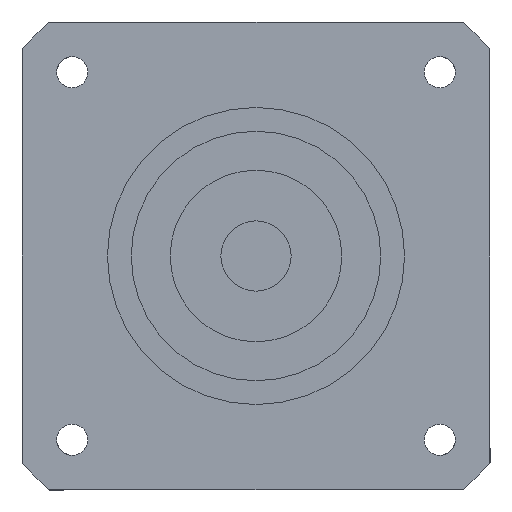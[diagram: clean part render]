
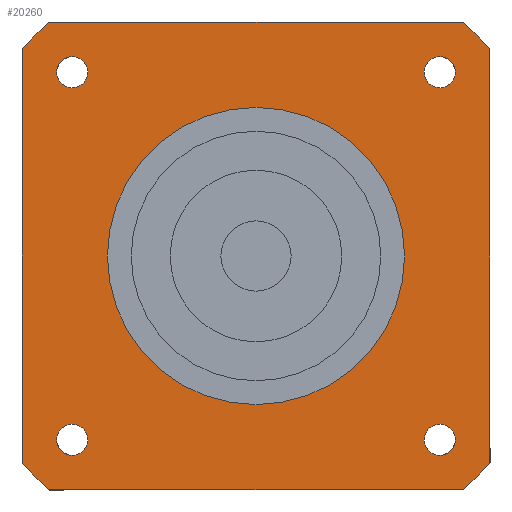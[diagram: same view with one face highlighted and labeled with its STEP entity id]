
A CAD part, left-side view. The second image highlights one B-rep face of the part: STEP entity #20260.
In plain terms, the highlighted planar face has unit normal (-1, 0, 0) as drawn and (0, 0, -1) by its records, which use the part's own axes.
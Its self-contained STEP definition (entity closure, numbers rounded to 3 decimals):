
#11110=CARTESIAN_POINT('',(-30.,-26.458,-57.));
#11120=VERTEX_POINT('',#11110);
#11280=CARTESIAN_POINT('',(-26.458,-30.,-57.));
#11290=VERTEX_POINT('',#11280);
#11320=CARTESIAN_POINT('',(0.,0.,
-57.));
#11330=DIRECTION('',(0.,0.,1.));
#11340=DIRECTION('',(0.,-1.,0.));
#11350=AXIS2_PLACEMENT_3D('',#11320,#11330,#11340);
#11360=CIRCLE('',#11350,40.);
#11370=EDGE_CURVE('',#11120,#11290,#11360,.T.);
#12870=CARTESIAN_POINT('',(-30.,26.458,-57.));
#12880=VERTEX_POINT('',#12870);
#12980=CARTESIAN_POINT('',(-30.,30.,-57.));
#12990=DIRECTION('',(0.,-1.,0.));
#13000=VECTOR('',#12990,1000.);
#13010=LINE('',#12980,#13000);
#13020=EDGE_CURVE('',#12880,#11120,#13010,.T.);
#17850=CARTESIAN_POINT('',(-26.458,30.,-57.));
#17860=VERTEX_POINT('',#17850);
#17910=CARTESIAN_POINT('',(0.,0.,
-57.));
#17920=DIRECTION('',(0.,0.,1.));
#17930=DIRECTION('',(0.,-1.,0.));
#17940=AXIS2_PLACEMENT_3D('',#17910,#17920,#17930);
#17950=CIRCLE('',#17940,40.);
#17960=EDGE_CURVE('',#17860,#12880,#17950,.T.);
#18100=CARTESIAN_POINT('',(26.458,30.,-57.));
#18110=VERTEX_POINT('',#18100);
#18160=CARTESIAN_POINT('',(30.,30.,-57.));
#18170=DIRECTION('',(-1.,0.,0.));
#18180=VECTOR('',#18170,1000.);
#18190=LINE('',#18160,#18180);
#18200=EDGE_CURVE('',#18110,#17860,#18190,.T.);
#18310=CARTESIAN_POINT('',(0.,0.,
-57.));
#18320=DIRECTION('',(0.,0.,1.));
#18330=DIRECTION('',(0.,-1.,0.));
#18340=AXIS2_PLACEMENT_3D('',#18310,#18320,#18330);
#18350=CIRCLE('',#18340,40.);
#18360=CARTESIAN_POINT('',(30.,26.458,-57.));
#18370=VERTEX_POINT('',#18360);
#18380=EDGE_CURVE('',#18370,#18110,#18350,.T.);
#18590=CARTESIAN_POINT('',(30.,-26.458,-57.));
#18600=VERTEX_POINT('',#18590);
#18650=CARTESIAN_POINT('',(30.,-30.,-57.));
#18660=DIRECTION('',(0.,1.,0.));
#18670=VECTOR('',#18660,1000.);
#18680=LINE('',#18650,#18670);
#18690=EDGE_CURVE('',#18600,#18370,#18680,.T.);
#18830=CARTESIAN_POINT('',(26.458,-30.,-57.));
#18840=VERTEX_POINT('',#18830);
#18890=CARTESIAN_POINT('',(0.,0.,
-57.));
#18900=DIRECTION('',(0.,0.,1.));
#18910=DIRECTION('',(0.,-1.,0.));
#18920=AXIS2_PLACEMENT_3D('',#18890,#18900,#18910);
#18930=CIRCLE('',#18920,40.);
#18940=EDGE_CURVE('',#18840,#18600,#18930,.T.);
#19070=CARTESIAN_POINT('',(-30.,-30.,-57.));
#19080=DIRECTION('',(1.,0.,0.));
#19090=VECTOR('',#19080,1000.);
#19100=LINE('',#19070,#19090);
#19110=EDGE_CURVE('',#11290,#18840,#19100,.T.);
#19160=CARTESIAN_POINT('',(-30.,30.,-57.));
#19170=DIRECTION('',(0.,0.,1.));
#19180=DIRECTION('',(-1.,0.,0.));
#19190=AXIS2_PLACEMENT_3D('',#19160,#19170,#19180);
#19200=PLANE('',#19190);
#19210=CARTESIAN_POINT('',(23.571,-23.571,-57.));
#19220=DIRECTION('',(0.,0.,-1.));
#19230=DIRECTION('',(1.,0.,0.));
#19240=AXIS2_PLACEMENT_3D('',#19210,#19220,#19230);
#19250=CIRCLE('',#19240,2.);
#19260=CARTESIAN_POINT('',(25.571,-23.571,-57.));
#19270=VERTEX_POINT('',#19260);
#19280=CARTESIAN_POINT('',(23.571,-25.571,-57.));
#19290=VERTEX_POINT('',#19280);
#19300=EDGE_CURVE('',#19270,#19290,#19250,.T.);
#19310=ORIENTED_EDGE('',*,*,#19300,.F.);
#19320=CARTESIAN_POINT('',(23.571,-21.571,-57.));
#19330=VERTEX_POINT('',#19320);
#19340=EDGE_CURVE('',#19290,#19330,#19250,.T.);
#19350=ORIENTED_EDGE('',*,*,#19340,.F.);
#19360=EDGE_CURVE('',#19330,#19270,#19250,.T.);
#19370=ORIENTED_EDGE('',*,*,#19360,.F.);
#19380=EDGE_LOOP('',(#19370,#19350,#19310));
#19390=FACE_BOUND('',#19380,.T.);
#19400=CARTESIAN_POINT('',(23.571,23.571,-57.));
#19410=DIRECTION('',(0.,0.,-1.));
#19420=DIRECTION('',(0.,1.,0.));
#19430=AXIS2_PLACEMENT_3D('',#19400,#19410,#19420);
#19440=CIRCLE('',#19430,2.);
#19450=CARTESIAN_POINT('',(23.571,25.571,-57.));
#19460=VERTEX_POINT('',#19450);
#19470=CARTESIAN_POINT('',(25.571,23.571,-57.));
#19480=VERTEX_POINT('',#19470);
#19490=EDGE_CURVE('',#19460,#19480,#19440,.T.);
#19500=ORIENTED_EDGE('',*,*,#19490,.F.);
#19510=CARTESIAN_POINT('',(21.571,23.571,-57.));
#19520=VERTEX_POINT('',#19510);
#19530=EDGE_CURVE('',#19480,#19520,#19440,.T.);
#19540=ORIENTED_EDGE('',*,*,#19530,.F.);
#19550=EDGE_CURVE('',#19520,#19460,#19440,.T.);
#19560=ORIENTED_EDGE('',*,*,#19550,.F.);
#19570=EDGE_LOOP('',(#19560,#19540,#19500));
#19580=FACE_BOUND('',#19570,.T.);
#19590=CARTESIAN_POINT('',(-23.571,23.571,-57.));
#19600=DIRECTION('',(0.,0.,-1.));
#19610=DIRECTION('',(-1.,0.,0.));
#19620=AXIS2_PLACEMENT_3D('',#19590,#19600,#19610);
#19630=CIRCLE('',#19620,2.);
#19640=CARTESIAN_POINT('',(-25.571,23.571,-57.));
#19650=VERTEX_POINT('',#19640);
#19660=CARTESIAN_POINT('',(-23.571,25.571,-57.));
#19670=VERTEX_POINT('',#19660);
#19680=EDGE_CURVE('',#19650,#19670,#19630,.T.);
#19690=ORIENTED_EDGE('',*,*,#19680,.F.);
#19700=CARTESIAN_POINT('',(-23.571,21.571,-57.));
#19710=VERTEX_POINT('',#19700);
#19720=EDGE_CURVE('',#19670,#19710,#19630,.T.);
#19730=ORIENTED_EDGE('',*,*,#19720,.F.);
#19740=EDGE_CURVE('',#19710,#19650,#19630,.T.);
#19750=ORIENTED_EDGE('',*,*,#19740,.F.);
#19760=EDGE_LOOP('',(#19750,#19730,#19690));
#19770=FACE_BOUND('',#19760,.T.);
#19780=CARTESIAN_POINT('',(-23.571,-23.571,-57.));
#19790=DIRECTION('',(0.,0.,-1.));
#19800=DIRECTION('',(0.,-1.,0.));
#19810=AXIS2_PLACEMENT_3D('',#19780,#19790,#19800);
#19820=CIRCLE('',#19810,2.);
#19830=CARTESIAN_POINT('',(-23.571,-25.571,-57.));
#19840=VERTEX_POINT('',#19830);
#19850=CARTESIAN_POINT('',(-25.571,-23.571,-57.));
#19860=VERTEX_POINT('',#19850);
#19870=EDGE_CURVE('',#19840,#19860,#19820,.T.);
#19880=ORIENTED_EDGE('',*,*,#19870,.F.);
#19890=CARTESIAN_POINT('',(-21.571,-23.571,-57.));
#19900=VERTEX_POINT('',#19890);
#19910=EDGE_CURVE('',#19860,#19900,#19820,.T.);
#19920=ORIENTED_EDGE('',*,*,#19910,.F.);
#19930=EDGE_CURVE('',#19900,#19840,#19820,.T.);
#19940=ORIENTED_EDGE('',*,*,#19930,.F.);
#19950=EDGE_LOOP('',(#19940,#19920,#19880));
#19960=FACE_BOUND('',#19950,.T.);
#19970=ORIENTED_EDGE('',*,*,#11370,.F.);
#19980=ORIENTED_EDGE('',*,*,#19110,.F.);
#19990=ORIENTED_EDGE('',*,*,#18940,.F.);
#20000=ORIENTED_EDGE('',*,*,#18690,.F.);
#20010=ORIENTED_EDGE('',*,*,#18380,.F.);
#20020=ORIENTED_EDGE('',*,*,#18200,.F.);
#20030=ORIENTED_EDGE('',*,*,#17960,.F.);
#20040=ORIENTED_EDGE('',*,*,#13020,.F.);
#20050=EDGE_LOOP('',(#20040,#20030,#20020,#20010,#20000,#19990,#19980,
#19970));
#20060=FACE_OUTER_BOUND('',#20050,.T.);
#20070=CARTESIAN_POINT('',(0.,0.,
-57.));
#20080=DIRECTION('',(0.,0.,1.));
#20090=DIRECTION('',(0.,-1.,0.));
#20100=AXIS2_PLACEMENT_3D('',#20070,#20080,#20090);
#20110=CIRCLE('',#20100,19.05);
#20120=CARTESIAN_POINT('',(19.05,0.,-57.));
#20130=VERTEX_POINT('',#20120);
#20140=CARTESIAN_POINT('',(-19.05,0.,-57.));
#20150=VERTEX_POINT('',#20140);
#20160=EDGE_CURVE('',#20130,#20150,#20110,.T.);
#20170=ORIENTED_EDGE('',*,*,#20160,.T.);
#20180=CARTESIAN_POINT('',(0.,-19.05,-57.));
#20190=VERTEX_POINT('',#20180);
#20200=EDGE_CURVE('',#20190,#20130,#20110,.T.);
#20210=ORIENTED_EDGE('',*,*,#20200,.T.);
#20220=EDGE_CURVE('',#20150,#20190,#20110,.T.);
#20230=ORIENTED_EDGE('',*,*,#20220,.T.);
#20240=EDGE_LOOP('',(#20230,#20210,#20170));
#20250=FACE_BOUND('',#20240,.T.);
#20260=ADVANCED_FACE('',(#19390,#19580,#19770,#19960,#20060,#20250),
#19200,.F.);
